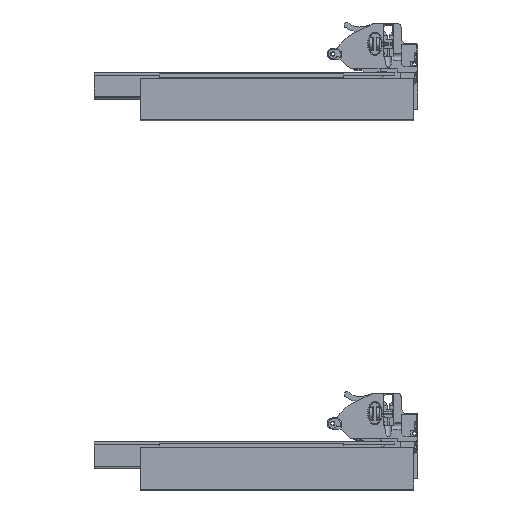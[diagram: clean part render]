
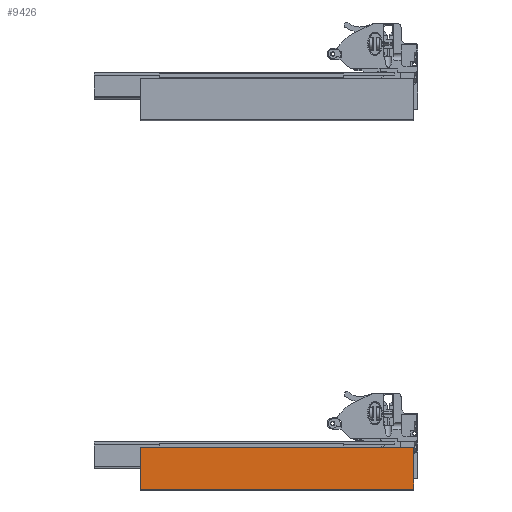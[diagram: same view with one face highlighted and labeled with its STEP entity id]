
A CAD part, front view. The second image highlights one B-rep face of the part: STEP entity #9426.
In plain terms, the highlighted planar face has unit normal (0, -1, 0).
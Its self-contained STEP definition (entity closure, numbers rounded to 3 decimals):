
#93=PLANE('',#10001);
#487=LINE('',#13385,#1614);
#488=LINE('',#13388,#1615);
#489=LINE('',#13390,#1616);
#490=LINE('',#13391,#1617);
#1614=VECTOR('',#10788,10.);
#1615=VECTOR('',#10791,10.);
#1616=VECTOR('',#10792,10.);
#1617=VECTOR('',#10793,10.);
#2867=FACE_OUTER_BOUND('',#3372,.T.);
#3372=EDGE_LOOP('',(#6500,#6501,#6502,#6503));
#4205=VERTEX_POINT('',#13378);
#4208=VERTEX_POINT('',#13383);
#4209=VERTEX_POINT('',#13387);
#4210=VERTEX_POINT('',#13389);
#5132=EDGE_CURVE('',#4208,#4205,#487,.T.);
#5133=EDGE_CURVE('',#4208,#4209,#488,.T.);
#5134=EDGE_CURVE('',#4209,#4210,#489,.T.);
#5135=EDGE_CURVE('',#4205,#4210,#490,.T.);
#6500=ORIENTED_EDGE('',*,*,#5132,.F.);
#6501=ORIENTED_EDGE('',*,*,#5133,.T.);
#6502=ORIENTED_EDGE('',*,*,#5134,.T.);
#6503=ORIENTED_EDGE('',*,*,#5135,.F.);
#9426=ADVANCED_FACE('',(#2867),#93,.T.);
#10001=AXIS2_PLACEMENT_3D('',#13386,#10789,#10790);
#10788=DIRECTION('',(-1.,0.,0.));
#10789=DIRECTION('center_axis',(0.,-1.,0.));
#10790=DIRECTION('ref_axis',(0.,0.,-1.));
#10791=DIRECTION('',(0.,0.,1.));
#10792=DIRECTION('',(-1.,0.,0.));
#10793=DIRECTION('',(0.,0.,1.));
#13378=CARTESIAN_POINT('',(-13.839,-144.183,1.));
#13383=CARTESIAN_POINT('',(282.161,-144.183,1.));
#13385=CARTESIAN_POINT('',(208.161,-144.183,1.));
#13386=CARTESIAN_POINT('Origin',(282.161,-144.183,0.));
#13387=CARTESIAN_POINT('',(282.161,-144.183,46.));
#13388=CARTESIAN_POINT('',(282.161,-144.183,0.));
#13389=CARTESIAN_POINT('',(-13.839,-144.183,46.));
#13390=CARTESIAN_POINT('',(-13.839,-144.183,46.));
#13391=CARTESIAN_POINT('',(-13.839,-144.183,0.));
